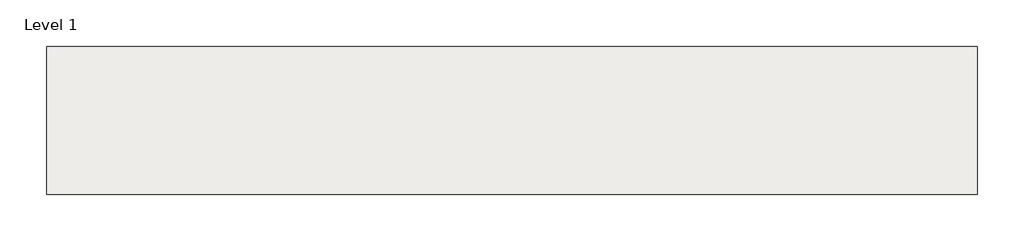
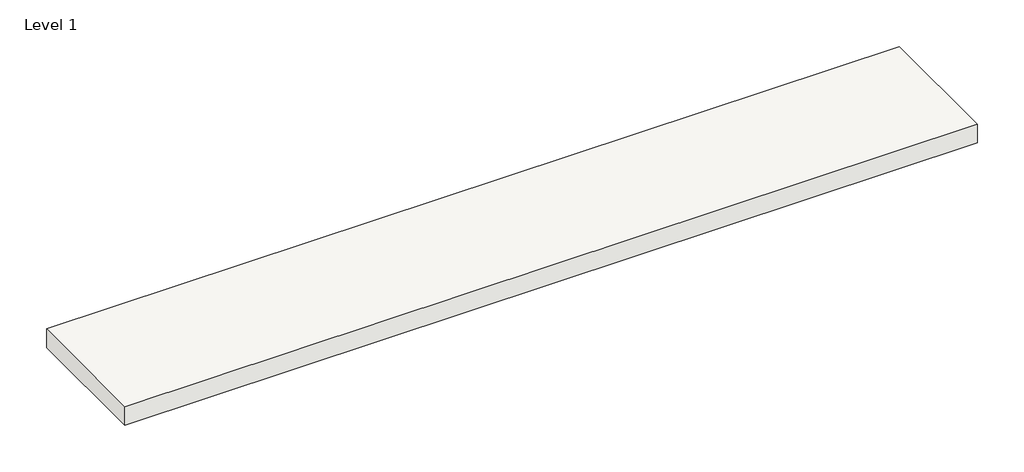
# One storey, incomplete: 1 slab.
"""IFC4 building model written with IfcOpenShell, lengths in millimetres."""

import ifcopenshell
import ifcopenshell.guid

model = None  # the IFC model being written
_history = None  # IfcOwnerHistory: only IFC2X3 demands one
_inside = {}  # id of a spatial element -> (the spatial element, [elements in it])
_under = {}  # id of a project, library or spatial element -> (it, [spatial elements below it])
_declared = {}  # id of a project -> (the project, [libraries it declares])
_typed = {}  # id of a type object -> (the type object, [elements of that type])
_made_of = {}  # id of a material, layer set ... -> (it, [elements and type objects made of it])


def new_model(schema):
    """Start an empty IFC model of exactly this schema.

    Asked for "IFC4X3", IfcOpenShell would pick the latest addendum, in which some entities
    have other attributes; the version numbers below select the first issue.
    IFC2X3 requires an IfcOwnerHistory on every rooted entity: one is made here for all.
    """
    global model, _history
    if schema == "IFC4X3":
        model = ifcopenshell.file(schema_version=(4, 3, 0, 0))
    else:
        model = ifcopenshell.file(schema=schema)
    _inside.clear()
    _under.clear()
    _declared.clear()
    _typed.clear()
    _made_of.clear()
    _history = None
    if model.schema == "IFC2X3":
        org = make("IfcOrganization", Name="unknown")
        user = make(
            "IfcPersonAndOrganization",
            ThePerson=make("IfcPerson", FamilyName="unknown"),
            TheOrganization=org,
        )
        app = make(
            "IfcApplication",
            ApplicationDeveloper=org,
            Version="unknown",
            ApplicationFullName="unknown",
            ApplicationIdentifier="unknown",
        )
        _history = make(
            "IfcOwnerHistory",
            OwningUser=user,
            OwningApplication=app,
            ChangeAction="ADDED",
            CreationDate=0,
        )
    return model


def make(cls, **values):
    """One entity of the class cls with the attributes given. An attribute that is None is left unset."""
    return model.create_entity(
        cls, **{name: value for name, value in values.items() if value is not None}
    )


def rooted(cls, **values):
    """An entity with a GlobalId (a new one), such as an element, a storey or a relation."""
    return make(cls, GlobalId=ifcopenshell.guid.new(), OwnerHistory=_history, **values)


def si_unit(unit_type, name, prefix=None):
    """IfcSIUnit, for example si_unit("LENGTHUNIT", "METRE", prefix="MILLI")."""
    return make("IfcSIUnit", UnitType=unit_type, Prefix=prefix, Name=name)


def assignment(units):
    """IfcUnitAssignment: the units of a project."""
    return None if units is None else make("IfcUnitAssignment", Units=units)


def point(xyz):
    """IfcCartesianPoint."""
    return None if xyz is None else make("IfcCartesianPoint", Coordinates=xyz)


def direction(xyz):
    """IfcDirection."""
    return None if xyz is None else make("IfcDirection", DirectionRatios=xyz)


def frame(location, z_axis=None, x_axis=None):
    """IfcAxis2Placement3D, a coordinate frame: its origin and axes. An axis left out is left unset."""
    return make(
        "IfcAxis2Placement3D",
        Location=point(location),
        Axis=direction(z_axis),
        RefDirection=direction(x_axis),
    )


def origin():
    """The frame at (0, 0, 0) with its axes left unset."""
    return frame((0.0, 0.0, 0.0))


def place(relative_to, where):
    """IfcLocalPlacement: puts the frame where relative to a parent placement (None: the world)."""
    return make(
        "IfcLocalPlacement", PlacementRelTo=relative_to, RelativePlacement=where
    )


def context(
    kind, dimensions, precision=None, world=None, true_north=None, identifier=None
):
    """IfcGeometricRepresentationContext, for example the 3D "Model" context."""
    return make(
        "IfcGeometricRepresentationContext",
        ContextIdentifier=identifier,
        ContextType=kind,
        CoordinateSpaceDimension=dimensions,
        Precision=precision,
        WorldCoordinateSystem=world,
        TrueNorth=true_north,
    )


def project(units=None, contexts=None):
    """IfcProject with its units and contexts."""
    return rooted(
        "IfcProject",
        Name="project",
        RepresentationContexts=contexts,
        UnitsInContext=assignment(units),
    )


def spatial(cls, under=None, at=None, **own):
    """A site, building, storey or space (cls), placed at a placement, below another one or the project."""
    s = rooted(cls, ObjectPlacement=at, **own)
    if under is not None:
        _under.setdefault(under.id(), (under, []))[1].append(s)
    return s


def polyline(points):
    """IfcPolyline through the points."""
    return make("IfcPolyline", Points=[point(p) for p in points])


def outline(outer, holes=None, kind="AREA"):
    """IfcArbitraryClosedProfileDef: a profile drawn as a closed curve; with holes, ...WithVoids."""
    if holes is None:
        return make("IfcArbitraryClosedProfileDef", ProfileType=kind, OuterCurve=outer)
    return make(
        "IfcArbitraryProfileDefWithVoids",
        ProfileType=kind,
        OuterCurve=outer,
        InnerCurves=holes,
    )


def extrude(swept, where, along, depth):
    """IfcExtrudedAreaSolid: the profile swept, set in the frame where, extruded along a direction by depth."""
    return make(
        "IfcExtrudedAreaSolid",
        SweptArea=swept,
        Position=where,
        ExtrudedDirection=direction(along),
        Depth=depth,
    )


def shape(context_of_items, identifier, shape_type, items):
    """IfcShapeRepresentation: the items that make up one representation, for example the "Body"."""
    return make(
        "IfcShapeRepresentation",
        ContextOfItems=context_of_items,
        RepresentationIdentifier=identifier,
        RepresentationType=shape_type,
        Items=items,
    )


def made_of(thing, what):
    """Note that an element or type object is made of a material, layer set ...; save() writes the relation."""
    if what is not None:
        _made_of.setdefault(what.id(), (what, []))[1].append(thing)
    return thing


def element(
    cls,
    number,
    at=None,
    inside=None,
    cuts=None,
    type_object=None,
    material=None,
    context=None,
    identifier="Body",
    shape_type=None,
    held_by="IfcProductDefinitionShape",
    body=None,
    shapes=None,
    **own,
):
    """One element of the class cls, such as IfcWall. Its Tag is "e" and its number.

    at: its placement. inside: the storey or other place that contains it. cuts: it is an
    opening in that element (IfcRelVoidsElement). A single representation is given by context,
    identifier, shape_type and body (its items); several are given by shapes. held_by: the class
    of the entity that holds the representations. save() writes the other relations.
    """
    e = rooted(cls, Tag="e%d" % number, ObjectPlacement=at, **own)
    if body is not None:
        shapes = [shape(context, identifier, shape_type, body)]
    if shapes is not None:
        e.Representation = make(held_by, Representations=shapes)
    if inside is not None:
        _inside.setdefault(inside.id(), (inside, []))[1].append(e)
    if cuts is not None:
        rooted(
            "IfcRelVoidsElement", RelatingBuildingElement=cuts, RelatedOpeningElement=e
        )
    if type_object is not None:
        _typed.setdefault(type_object.id(), (type_object, []))[1].append(e)
    return made_of(e, material)


def aggregate(whole, parts):
    """IfcRelAggregates: a whole, such as a stair, and the parts it consists of."""
    return rooted("IfcRelAggregates", RelatingObject=whole, RelatedObjects=parts)


def save(model, path):
    """Write the relations noted so far, then the file.

    IfcRelAggregates (storeys below a building ...), IfcRelContainedInSpatialStructure (elements
    in a storey), IfcRelDefinesByType, IfcRelAssociatesMaterial and IfcRelDeclares: one each for
    every whole, place, type object, material and project.
    """
    for whole, parts in _under.values():
        aggregate(whole, parts)
    for where, things in _inside.values():
        rooted(
            "IfcRelContainedInSpatialStructure",
            RelatedElements=things,
            RelatingStructure=where,
        )
    for kind, things in _typed.values():
        rooted("IfcRelDefinesByType", RelatedObjects=things, RelatingType=kind)
    for what, things in _made_of.values():
        rooted("IfcRelAssociatesMaterial", RelatedObjects=things, RelatingMaterial=what)
    for by, libraries in _declared.values():
        rooted("IfcRelDeclares", RelatingContext=by, RelatedDefinitions=libraries)
    model.write(path)


model = new_model("IFC4")

# Units and contexts
model_context = context("Model", 3, world=origin())
ifc_project = project(units=[si_unit("LENGTHUNIT", "METRE", prefix="MILLI")], contexts=[model_context])

# Site, building, storey
site = spatial("IfcSite", under=ifc_project)
building = spatial("IfcBuilding", under=site)
storey = spatial("IfcBuildingStorey", under=building, Name="Level 1", Elevation=0.0)

# Slab
placement = place(None, origin())
element("IfcSlab", 1, ObjectType="Generic - 12\"", at=placement, inside=storey, context=model_context, shape_type="SweptSolid", body=[
    extrude(outline(polyline([(-5648.4242006, 14637.2598675), (-5648.4242006, 12537.2598675), (-18848.4242006, 12537.2598675), (-18848.4242006, 14637.2598675), (-5648.4242006, 14637.2598675)])), frame((0.0, 0.0, -304.8), z_axis=(0.0, 0.0, 1.0), x_axis=(1.0, 0.0, 0.0)), (0.0, 0.0, 1.0), 304.8),
])

save(model, "model.ifc")
